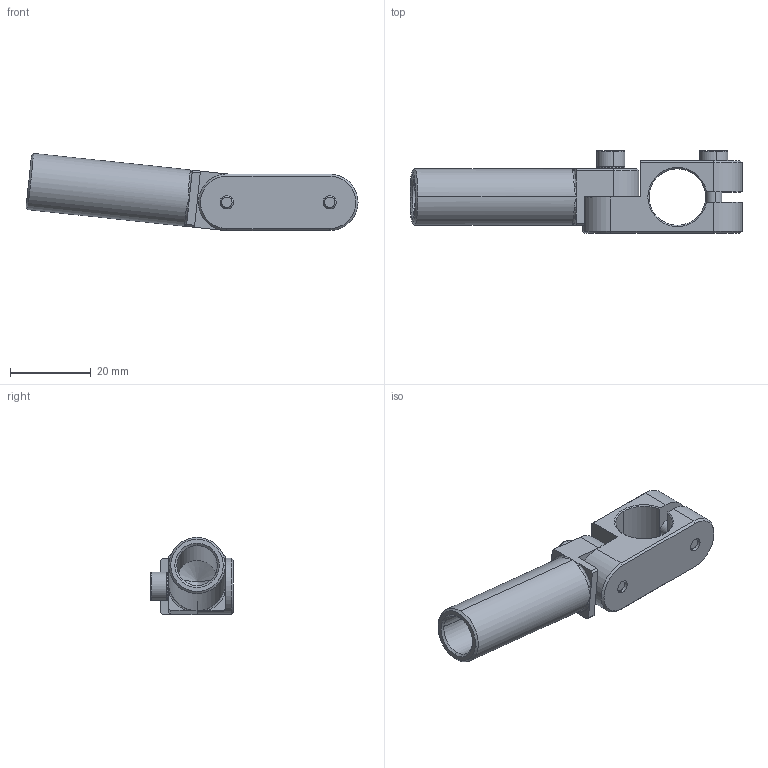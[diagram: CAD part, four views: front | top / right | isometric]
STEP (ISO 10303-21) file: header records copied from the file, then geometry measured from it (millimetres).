
FILE_DESCRIPTION (( 'STEP AP214' ), '1' );
FILE_NAME ('SEA-1414L40.STEP', '2019-11-11T02:43:44', ( '微软用户' ), ( '微软中国' ), 'SwSTEP 2.0', 'SolidWorks 2016', '' );
FILE_SCHEMA (( 'AUTOMOTIVE_DESIGN' ));
Length unit declared in the file: millimetre
Products named in the file (1): SEA-1414L40
Bounding box: 82.21 x 20.5 x 19.1 mm (x, y, z)
Volume: 10387.1 mm3; surface area: 7952.1 mm2
Topology: 6 solids, 6 shells, 502 faces, 1430 edges, 927 vertices
Faces by surface type: plane 431, cylinder 35, cone 20, bspline 16
Entity records: 23953 total; most frequent: CARTESIAN_POINT 5022, ORIENTED_EDGE 2832, DIRECTION 2828, EDGE_CURVE 1416, AXIS2_PLACEMENT_3D 953, VERTEX_POINT 927, VECTOR 922, LINE 922
